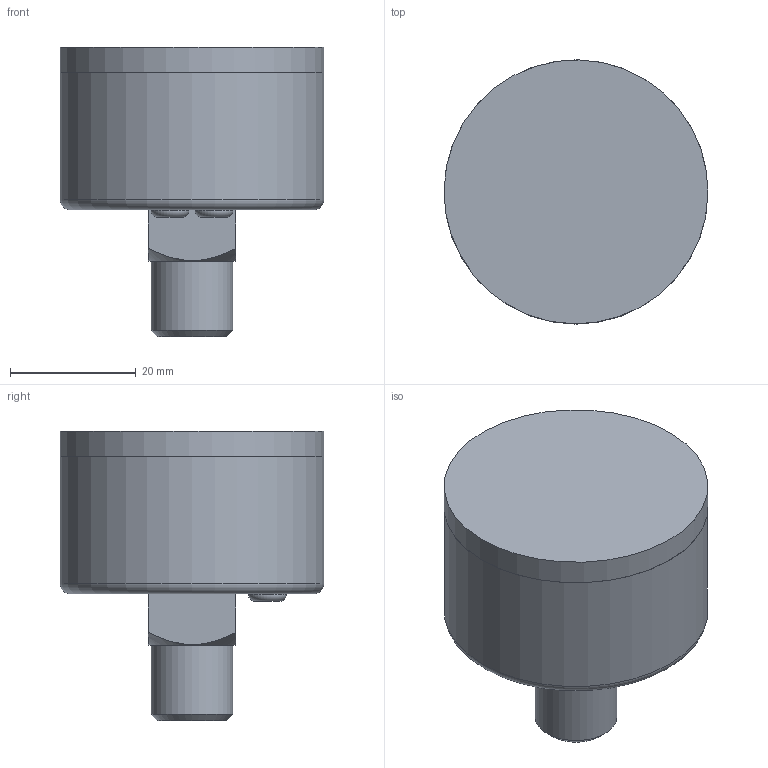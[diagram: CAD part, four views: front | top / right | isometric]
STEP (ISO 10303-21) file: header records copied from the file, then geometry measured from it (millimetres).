
FILE_DESCRIPTION(/* description */ (''),/* implementation_level */ '2;1');
FILE_NAME(/* name */ '',/* time_stamp */ '2025-05-15T08:33:50+03:00',/* author */ ('User'),/* organization */ (''),/* preprocessor_version */ 'ST-DEVELOPER v19.2',/* originating_system */ 'Autodesk Inventor 2024',/* authorisation */ '');
FILE_SCHEMA (('AUTOMOTIVE_DESIGN { 1 0 10303 214 3 1 1 }'));
Length unit declared in the file: millimetre
Products named in the file (3): Вакуум-манометр 
GZ46-K-02; манометр; стекло манометра
Assembly tree (2 placements, depth 2):
  Вакуум-манометр 
GZ46-K-02
    манометр
    стекло манометра
Bounding box: 42 x 42 x 46 mm (x, y, z)
Volume: 28926 mm3; surface area: 12115.4 mm2
Topology: 2 solids, 2 shells, 518 faces, 1319 edges, 858 vertices
Faces by surface type: plane 275, bspline 160, cylinder 76, cone 4, torus 3
Full cylindrical faces by diameter (mm): 0.5 x3, 3 x1, 3.3 x1, 6 x2, 13 x1, 38 x1, 40 x2, 42 x2
Entity records: 16706 total; most frequent: CARTESIAN_POINT 4824, ORIENTED_EDGE 2658, DIRECTION 1906, EDGE_CURVE 1329, VERTEX_POINT 858, LINE 838, VECTOR 838, EDGE_LOOP 571
